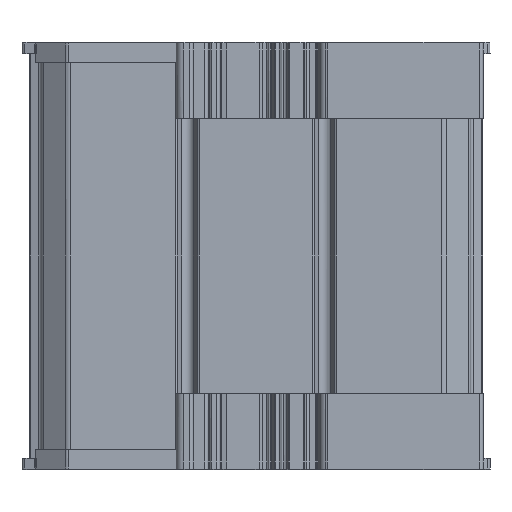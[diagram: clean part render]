
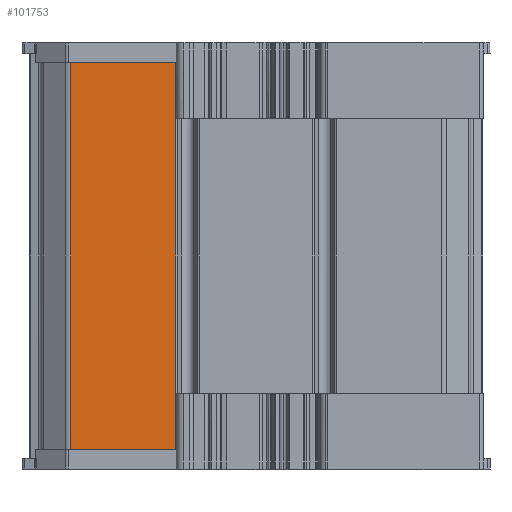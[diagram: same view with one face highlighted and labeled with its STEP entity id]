
A CAD part, front view. The second image highlights one B-rep face of the part: STEP entity #101753.
In plain terms, the highlighted planar face has unit normal (0, -1, 0).
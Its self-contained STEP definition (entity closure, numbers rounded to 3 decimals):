
#6934 = CARTESIAN_POINT ( 'NONE',  ( 10.849, 13.775, -33.8 ) ) ;
#11200 = VERTEX_POINT ( 'NONE', #55931 ) ;
#15024 = DIRECTION ( 'NONE',  ( 0., 0., 1. ) ) ;
#16755 = VERTEX_POINT ( 'NONE', #163918 ) ;
#17463 = ORIENTED_EDGE ( 'NONE', *, *, #57315, .T. ) ;
#19399 = LINE ( 'NONE', #63597, #37363 ) ;
#37363 = VECTOR ( 'NONE', #15024, 1000. ) ;
#55931 = CARTESIAN_POINT ( 'NONE',  ( 38.343, 13.775, -140. ) ) ;
#57315 = EDGE_CURVE ( 'NONE', #16755, #268283, #265975, .T. ) ;
#58037 = ORIENTED_EDGE ( 'NONE', *, *, #84324, .F. ) ;
#61761 = CARTESIAN_POINT ( 'NONE',  ( 20.014, 13.775, -140. ) ) ;
#61787 = CARTESIAN_POINT ( 'NONE',  ( 29.178, 13.775, -33.8 ) ) ;
#63597 = CARTESIAN_POINT ( 'NONE',  ( 10.849, 13.775, -100. ) ) ;
#82425 = CARTESIAN_POINT ( 'NONE',  ( 20.014, 13.775, -33.8 ) ) ;
#84324 = EDGE_CURVE ( 'NONE', #11200, #170390, #213147, .T. ) ;
#98962 = AXIS2_PLACEMENT_3D ( 'NONE', #135065, #248479, #288372 ) ;
#101619 = CARTESIAN_POINT ( 'NONE',  ( 29.178, 13.775, -140. ) ) ;
#101753 = ADVANCED_FACE ( 'NONE', ( #223487 ), #198459, .F. ) ;
#104168 = LINE ( 'NONE', #264665, #276803 ) ;
#105966 = CARTESIAN_POINT ( 'NONE',  ( 38.343, 13.775, -33.8 ) ) ;
#115472 = EDGE_CURVE ( 'NONE', #170390, #268283, #19399, .T. ) ;
#135065 = CARTESIAN_POINT ( 'NONE',  ( 24.596, 13.775, -100. ) ) ;
#147243 = CARTESIAN_POINT ( 'NONE',  ( 10.849, 13.775, -140. ) ) ;
#153047 = CARTESIAN_POINT ( 'NONE',  ( 10.849, 13.775, -33.8 ) ) ;
#163918 = CARTESIAN_POINT ( 'NONE',  ( 38.343, 13.775, -33.8 ) ) ;
#170390 = VERTEX_POINT ( 'NONE', #195560 ) ;
#194883 = EDGE_LOOP ( 'NONE', ( #195580, #58037, #235282, #17463 ) ) ;
#195560 = CARTESIAN_POINT ( 'NONE',  ( 10.849, 13.775, -140. ) ) ;
#195580 = ORIENTED_EDGE ( 'NONE', *, *, #115472, .F. ) ;
#198459 = PLANE ( 'NONE',  #98962 ) ;
#213147 = B_SPLINE_CURVE_WITH_KNOTS ( 'NONE', 3,
 ( #285655, #101619, #61761, #147243 ),
 .UNSPECIFIED., .F., .F.,
 ( 4, 4 ),
 ( 0., 1. ),
 .UNSPECIFIED. ) ;
#223487 = FACE_OUTER_BOUND ( 'NONE', #194883, .T. ) ;
#235282 = ORIENTED_EDGE ( 'NONE', *, *, #280109, .F. ) ;
#248479 = DIRECTION ( 'NONE',  ( 0., 1., 0. ) ) ;
#264665 = CARTESIAN_POINT ( 'NONE',  ( 38.343, 13.775, 0. ) ) ;
#265975 = B_SPLINE_CURVE_WITH_KNOTS ( 'NONE', 3,
 ( #105966, #61787, #82425, #153047 ),
 .UNSPECIFIED., .F., .F.,
 ( 4, 4 ),
 ( 0., 1. ),
 .UNSPECIFIED. ) ;
#268283 = VERTEX_POINT ( 'NONE', #6934 ) ;
#276803 = VECTOR ( 'NONE', #282418, 1000. ) ;
#280109 = EDGE_CURVE ( 'NONE', #16755, #11200, #104168, .T. ) ;
#282418 = DIRECTION ( 'NONE',  ( 0., 0., -1. ) ) ;
#285655 = CARTESIAN_POINT ( 'NONE',  ( 38.343, 13.775, -140. ) ) ;
#288372 = DIRECTION ( 'NONE',  ( 0., 0., 1. ) ) ;
